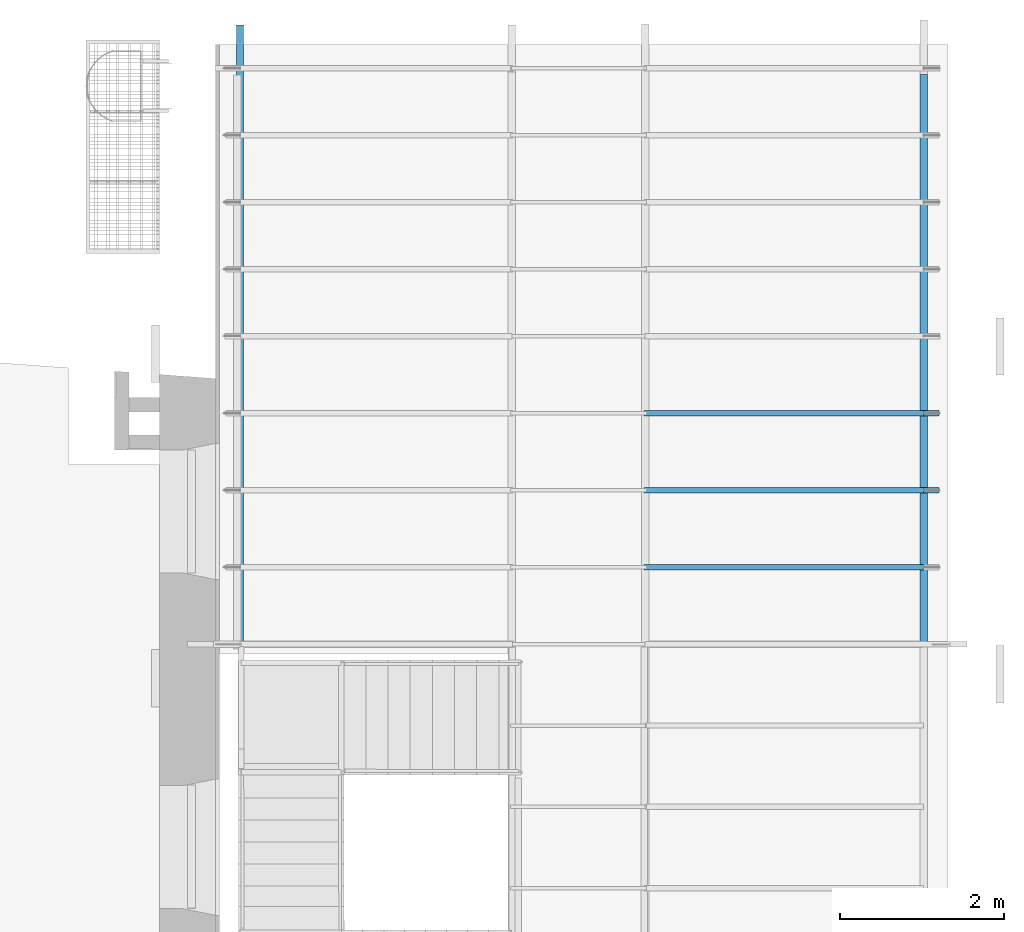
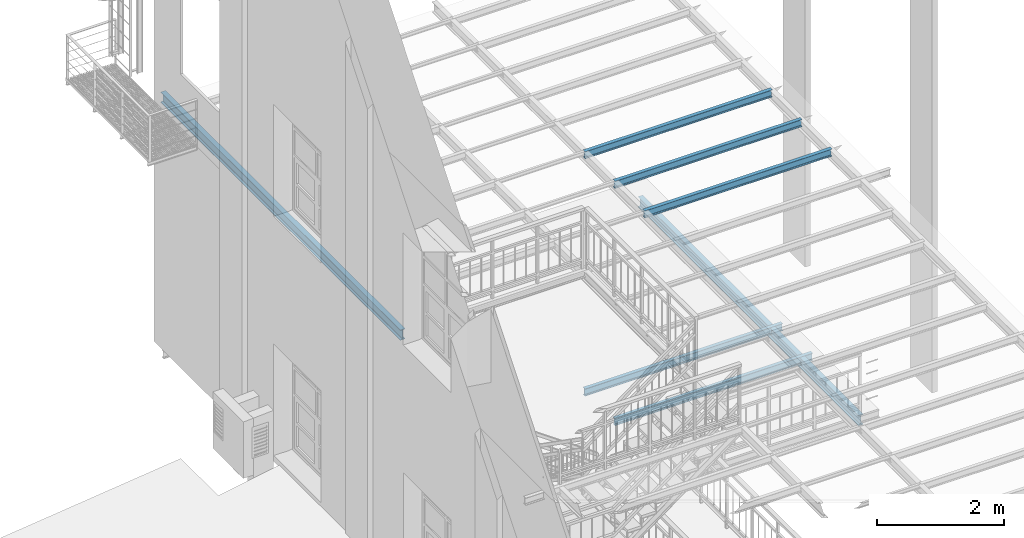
# One storey, part 17 of 33: 7 beams.
"""IFC2X3 building model written with IfcOpenShell, lengths in metres."""

from ifc_helpers import new_model, entity, si_unit, converted_unit, derived_unit, direction, frame, frame_2d, origin, place, context, subcontext, project, spatial, polyline, circle_curve, parameter, trimmed, segment, composite_curve, outline, extrude, material, type_object, element, save


model = new_model("IFC2X3")

# Units and contexts
model_context = context("Model", 3, precision=1e-05, world=origin(), true_north=direction((6.12303176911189e-17, 1.0)))
body_context = subcontext(model_context, "Body", "Model", "MODEL_VIEW")
ifc_project = project(units=[si_unit("LENGTHUNIT", "METRE"), si_unit("AREAUNIT", "SQUARE_METRE"), si_unit("VOLUMEUNIT", "CUBIC_METRE"), converted_unit("PLANEANGLEUNIT", "DEGREE", entity("IfcRatioMeasure", 0.0174532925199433), si_unit("PLANEANGLEUNIT", "RADIAN"), dimensions=[0, 0, 0, 0, 0, 0, 0]), si_unit("MASSUNIT", "GRAM", prefix="KILO"), derived_unit("MASSDENSITYUNIT", [(si_unit("MASSUNIT", "GRAM", prefix="KILO"), 1), (si_unit("LENGTHUNIT", "METRE"), -3)]), derived_unit("MOMENTOFINERTIAUNIT", [(si_unit("LENGTHUNIT", "METRE"), 4)]), si_unit("TIMEUNIT", "SECOND"), si_unit("FREQUENCYUNIT", "HERTZ"), si_unit("THERMODYNAMICTEMPERATUREUNIT", "DEGREE_CELSIUS"), derived_unit("THERMALTRANSMITTANCEUNIT", [(si_unit("MASSUNIT", "GRAM", prefix="KILO"), 1), (si_unit("THERMODYNAMICTEMPERATUREUNIT", "KELVIN"), -1), (si_unit("TIMEUNIT", "SECOND"), -3)]), derived_unit("VOLUMETRICFLOWRATEUNIT", [(si_unit("LENGTHUNIT", "METRE"), 3), (si_unit("TIMEUNIT", "SECOND"), -1)]), si_unit("ELECTRICCURRENTUNIT", "AMPERE"), si_unit("ELECTRICVOLTAGEUNIT", "VOLT"), si_unit("POWERUNIT", "WATT"), si_unit("FORCEUNIT", "NEWTON", prefix="KILO"), si_unit("ILLUMINANCEUNIT", "LUX"), si_unit("LUMINOUSFLUXUNIT", "LUMEN"), si_unit("LUMINOUSINTENSITYUNIT", "CANDELA"), derived_unit("USERDEFINED", [(si_unit("MASSUNIT", "GRAM", prefix="KILO"), -1), (si_unit("LENGTHUNIT", "METRE"), -2), (si_unit("TIMEUNIT", "SECOND"), 3), (si_unit("LUMINOUSFLUXUNIT", "LUMEN"), 1)]), derived_unit("LINEARVELOCITYUNIT", [(si_unit("LENGTHUNIT", "METRE"), 1), (si_unit("TIMEUNIT", "SECOND"), -1)]), si_unit("PRESSUREUNIT", "PASCAL"), derived_unit("USERDEFINED", [(si_unit("LENGTHUNIT", "METRE"), -2), (si_unit("MASSUNIT", "GRAM", prefix="KILO"), 1), (si_unit("TIMEUNIT", "SECOND"), -2)]), derived_unit("LINEARFORCEUNIT", [(si_unit("MASSUNIT", "GRAM", prefix="KILO"), 1), (si_unit("LENGTHUNIT", "METRE"), 1), (si_unit("TIMEUNIT", "SECOND"), -2), (si_unit("LENGTHUNIT", "METRE"), -1)]), derived_unit("PLANARFORCEUNIT", [(si_unit("MASSUNIT", "GRAM", prefix="KILO"), 1), (si_unit("LENGTHUNIT", "METRE"), 1), (si_unit("TIMEUNIT", "SECOND"), -2), (si_unit("LENGTHUNIT", "METRE"), -2)])], contexts=[model_context])

# Site, building, storey
site_placement = place(None, origin())
site = spatial("IfcSite", under=ifc_project, at=site_placement, Name="Superficie", CompositionType="ELEMENT")
building_placement = place(site_placement, origin())
building = spatial("IfcBuilding", under=site, at=building_placement, Name="Telegestiones", CompositionType="ELEMENT")
storey_placement = place(building_placement, frame((0.0, 0.0, 4.94)))
storey = spatial("IfcBuildingStorey", under=building, at=storey_placement, Name="Nivel 1_NPT", CompositionType="ELEMENT", Elevation=4.94)

# Beams
ifc_material = material(Name="Metal - Acero - 345 MPa")
beam_type_1 = type_object("IfcBeamType", Name="IPN - Secciones en I con alas cónicas:IPN 200", PredefinedType="NOTDEFINED")
beam_1_placement = place(storey_placement, frame((14.6648126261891, 13.5236090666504, 0.0), z_axis=(0.0, 0.0, 1.0), x_axis=(0.0, -1.0, 0.0)))
element("IfcBeam", 1, at=beam_1_placement, inside=storey, type_object=beam_type_1, material=ifc_material, Name="IPN - Secciones en I con alas cónicas:IPN 200", ObjectType="IPN - Secciones en I con alas cónicas:IPN 200", context=body_context, shape_type="SweptSolid", body=[
    extrude(outline(composite_curve([segment(polyline([(0.0957638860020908, -0.0450000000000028), (0.100000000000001, -0.0450000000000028)]), True, "CONTINUOUS"), segment(polyline([(0.100000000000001, -0.0450000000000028), (0.100000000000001, 0.0449999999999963)]), True, "CONTINUOUS"), segment(polyline([(0.100000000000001, 0.0449999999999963), (0.0957638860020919, 0.0449999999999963)]), True, "CONTINUOUS"), segment(trimmed(circle_curve(frame_2d((0.0957638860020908, 0.0404999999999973), x_axis=(0.0, 1.0)), 0.0044999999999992), [parameter(0.0)], [parameter(82.0303896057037)], True, "PARAMETER"), True, "CONTINUOUS"), segment(polyline([(0.0913073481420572, 0.0411239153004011), (0.0869794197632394, 0.0102101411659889)]), True, "CONTINUOUS"), segment(trimmed(circle_curve(frame_2d((0.0795518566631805, 0.0112499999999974), x_axis=(0.990341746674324, -0.138647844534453)), 0.00750000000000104), [parameter(277.969610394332)], [parameter(0.0)], True, "PARAMETER"), False, "CONTINUOUS"), segment(polyline([(0.0795518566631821, 0.00374999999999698), (-0.079551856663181, 0.00374999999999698)]), True, "CONTINUOUS"), segment(trimmed(circle_curve(frame_2d((-0.0795518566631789, 0.0112499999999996), x_axis=(0.0, -1.0)), 0.00750000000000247), [parameter(277.969610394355)], [parameter(0.0)], True, "PARAMETER"), False, "CONTINUOUS"), segment(polyline([(-0.0869794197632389, 0.0102101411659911), (-0.0913073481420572, 0.0411239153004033)]), True, "CONTINUOUS"), segment(trimmed(circle_curve(frame_2d((-0.0957638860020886, 0.0404999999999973), x_axis=(0.990341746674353, 0.138647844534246)), 0.00449999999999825), [parameter(0.0)], [parameter(82.0303896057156)], True, "PARAMETER"), True, "CONTINUOUS"), segment(polyline([(-0.0957638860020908, 0.0449999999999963), (-0.0999999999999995, 0.0449999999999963)]), True, "CONTINUOUS"), segment(polyline([(-0.0999999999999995, 0.0449999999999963), (-0.0999999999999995, -0.0450000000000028)]), True, "CONTINUOUS"), segment(polyline([(-0.0999999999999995, -0.0450000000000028), (-0.0957638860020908, -0.0450000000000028)]), True, "CONTINUOUS"), segment(trimmed(circle_curve(frame_2d((-0.0957638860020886, -0.0405000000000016), x_axis=(0.0, -1.0)), 0.00449999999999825), [parameter(0.0)], [parameter(82.0303896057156)], True, "PARAMETER"), True, "CONTINUOUS"), segment(polyline([(-0.0913073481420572, -0.0411239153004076), (-0.0869794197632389, -0.0102101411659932)]), True, "CONTINUOUS"), segment(trimmed(circle_curve(frame_2d((-0.0795518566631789, -0.0112500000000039), x_axis=(-0.990341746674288, 0.138647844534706)), 0.00750000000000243), [parameter(277.969610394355)], [parameter(0.0)], True, "PARAMETER"), False, "CONTINUOUS"), segment(polyline([(-0.079551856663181, -0.00375000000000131), (0.079551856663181, -0.00375000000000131)]), True, "CONTINUOUS"), segment(trimmed(circle_curve(frame_2d((0.0795518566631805, -0.0112500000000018), x_axis=(0.0, 1.0)), 0.00750000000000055), [parameter(277.969610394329)], [parameter(0.0)], True, "PARAMETER"), False, "CONTINUOUS"), segment(polyline([(0.0869794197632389, -0.0102101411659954), (0.0913073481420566, -0.0411239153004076)]), True, "CONTINUOUS"), segment(trimmed(circle_curve(frame_2d((0.0957638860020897, -0.0405000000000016), x_axis=(-0.990341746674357, -0.138647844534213)), 0.00449999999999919), [parameter(0.0)], [parameter(82.0303896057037)], True, "PARAMETER"), True, "CONTINUOUS")], self_intersect=False)), frame((0.143000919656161, 0.0, -0.130000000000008), z_axis=(1.0, 0.0, 0.0), x_axis=(0.0, 0.0, -1.0)), (0.0, 0.0, 1.0), 6.946),
])
beam_2_placement = place(storey_placement, frame((6.33481262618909, 6.43560722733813, 4.56), z_axis=(0.0, 0.0, 1.0), x_axis=(0.0, 1.0, 0.0)))
element("IfcBeam", 2, at=beam_2_placement, inside=storey, type_object=beam_type_1, material=ifc_material, Name="IPN - Secciones en I con alas cónicas:IPN 200", ObjectType="IPN - Secciones en I con alas cónicas:IPN 200", context=body_context, shape_type="SweptSolid", body=[
    extrude(outline(composite_curve([segment(polyline([(0.0957638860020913, -0.0449999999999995), (0.100000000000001, -0.0449999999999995)]), True, "CONTINUOUS"), segment(polyline([(0.100000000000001, -0.0449999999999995), (0.100000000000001, 0.0449999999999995)]), True, "CONTINUOUS"), segment(polyline([(0.100000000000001, 0.0449999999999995), (0.0957638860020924, 0.0449999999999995)]), True, "CONTINUOUS"), segment(trimmed(circle_curve(frame_2d((0.0957638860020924, 0.0404999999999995), x_axis=(0.0, 1.0)), 0.00450000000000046), [parameter(0.0)], [parameter(82.0303896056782)], True, "PARAMETER"), True, "CONTINUOUS"), segment(polyline([(0.0913073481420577, 0.0411239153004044), (0.0869794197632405, 0.0102101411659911)]), True, "CONTINUOUS"), segment(trimmed(circle_curve(frame_2d((0.0795518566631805, 0.0112500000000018), x_axis=(0.990341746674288, -0.138647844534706)), 0.00750000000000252), [parameter(277.969610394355)], [parameter(0.0)], True, "PARAMETER"), False, "CONTINUOUS"), segment(polyline([(0.0795518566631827, 0.00374999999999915), (-0.0795518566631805, 0.00374999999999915)]), True, "CONTINUOUS"), segment(trimmed(circle_curve(frame_2d((-0.0795518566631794, 0.0112500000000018), x_axis=(0.0, -1.0)), 0.00750000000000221), [parameter(277.96961039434)], [parameter(0.0)], True, "PARAMETER"), False, "CONTINUOUS"), segment(polyline([(-0.0869794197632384, 0.0102101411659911), (-0.0913073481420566, 0.0411239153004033)]), True, "CONTINUOUS"), segment(trimmed(circle_curve(frame_2d((-0.0957638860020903, 0.0404999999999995), x_axis=(0.990341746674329, 0.138647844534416)), 0.00450000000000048), [parameter(0.0)], [parameter(82.0303896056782)], True, "PARAMETER"), True, "CONTINUOUS"), segment(polyline([(-0.0957638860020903, 0.0449999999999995), (-0.0999999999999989, 0.0449999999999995)]), True, "CONTINUOUS"), segment(polyline([(-0.0999999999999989, 0.0450000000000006), (-0.0999999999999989, -0.0449999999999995)]), True, "CONTINUOUS"), segment(polyline([(-0.0999999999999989, -0.0449999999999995), (-0.0957638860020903, -0.0449999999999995)]), True, "CONTINUOUS"), segment(trimmed(circle_curve(frame_2d((-0.0957638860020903, -0.0404999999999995), x_axis=(0.0, -1.0)), 0.00450000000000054), [parameter(0.0)], [parameter(82.0303896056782)], True, "PARAMETER"), True, "CONTINUOUS"), segment(polyline([(-0.0913073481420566, -0.0411239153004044), (-0.0869794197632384, -0.0102101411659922)]), True, "CONTINUOUS"), segment(trimmed(circle_curve(frame_2d((-0.0795518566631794, -0.0112500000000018), x_axis=(-0.990341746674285, 0.138647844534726)), 0.00750000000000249), [parameter(277.969610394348)], [parameter(0.0)], True, "PARAMETER"), False, "CONTINUOUS"), segment(polyline([(-0.0795518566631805, -0.00375000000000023), (0.0795518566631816, -0.00375000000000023)]), True, "CONTINUOUS"), segment(trimmed(circle_curve(frame_2d((0.0795518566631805, -0.0112500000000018), x_axis=(0.0, 1.0)), 0.00750000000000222), [parameter(277.96961039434)], [parameter(0.0)], True, "PARAMETER"), False, "CONTINUOUS"), segment(polyline([(0.0869794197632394, -0.0102101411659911), (0.0913073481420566, -0.0411239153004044)]), True, "CONTINUOUS"), segment(trimmed(circle_curve(frame_2d((0.0957638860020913, -0.0404999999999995), x_axis=(-0.990341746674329, -0.138647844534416)), 0.00450000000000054), [parameter(0.0)], [parameter(82.0303896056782)], True, "PARAMETER"), True, "CONTINUOUS")], self_intersect=False)), frame((0.0, 0.0, -0.130000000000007), z_axis=(1.0, 0.0, 0.0), x_axis=(0.0, 0.0, -1.0)), (0.0, 0.0, 1.0), 7.548),
])
beam_type_2 = type_object("IfcBeamType", Name="IPN - Secciones en I con alas cónicas:IPN 140", PredefinedType="NOTDEFINED")
beam_3_placement = place(storey_placement, frame((11.2748126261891, 9.25260722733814, 0.0)))
element("IfcBeam", 3, at=beam_3_placement, inside=storey, type_object=beam_type_2, material=ifc_material, Name="IPN - Secciones en I con alas cónicas:IPN 140", ObjectType="IPN - Secciones en I con alas cónicas:IPN 140", context=body_context, shape_type="SweptSolid", body=[
    extrude(outline(composite_curve([segment(polyline([(0.0666671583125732, -0.0330000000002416), (0.0699999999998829, -0.0330000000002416)]), True, "CONTINUOUS"), segment(polyline([(0.0699999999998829, -0.0330000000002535), (0.0700000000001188, 0.0329999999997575)]), True, "CONTINUOUS"), segment(polyline([(0.0700000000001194, 0.0329999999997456), (0.0666671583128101, 0.0329999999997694)]), True, "CONTINUOUS"), segment(trimmed(circle_curve(frame_2d((0.0666671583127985, 0.0295999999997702), x_axis=(0.0, 1.0)), 0.00340000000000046), [parameter(0.0)], [parameter(82.0303896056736)], True, "PARAMETER"), True, "CONTINUOUS"), segment(polyline([(0.0632999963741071, 0.030071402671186), (0.0601763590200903, 0.00775970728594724)]), True, "CONTINUOUS"), segment(trimmed(circle_curve(frame_2d((0.0545314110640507, 0.00854999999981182), x_axis=(0.990341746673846, -0.138647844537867)), 0.00569999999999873), [parameter(277.969610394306)], [parameter(0.0)], True, "PARAMETER"), False, "CONTINUOUS"), segment(polyline([(0.0545314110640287, 0.00284999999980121), (-0.0545314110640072, 0.00285000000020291)]), True, "CONTINUOUS"), segment(trimmed(circle_curve(frame_2d((-0.0545314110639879, 0.00855000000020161), x_axis=(0.0, -1.0)), 0.00569999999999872), [parameter(277.969610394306)], [parameter(0.0)], True, "PARAMETER"), False, "CONTINUOUS"), segment(polyline([(-0.0601763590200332, 0.00775970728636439), (-0.06329999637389, 0.0300714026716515)]), True, "CONTINUOUS"), segment(trimmed(circle_curve(frame_2d((-0.0666671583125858, 0.0296000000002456), x_axis=(0.990341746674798, 0.138647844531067)), 0.00340000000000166), [parameter(0.0)], [parameter(82.0303896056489)], True, "PARAMETER"), True, "CONTINUOUS"), segment(polyline([(-0.0666671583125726, 0.033000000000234), (-0.0699999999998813, 0.0330000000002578)]), True, "CONTINUOUS"), segment(polyline([(-0.0699999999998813, 0.0330000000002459), (-0.0700000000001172, -0.0329999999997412)]), True, "CONTINUOUS"), segment(polyline([(-0.0700000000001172, -0.0329999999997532), (-0.0666671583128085, -0.0329999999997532)]), True, "CONTINUOUS"), segment(trimmed(circle_curve(frame_2d((-0.0666671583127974, -0.0295999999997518), x_axis=(0.0, -1.0)), 0.00340000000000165), [parameter(0.0)], [parameter(82.0303896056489)], True, "PARAMETER"), True, "CONTINUOUS"), segment(polyline([(-0.0632999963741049, -0.0300714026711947), (-0.0601763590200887, -0.00775970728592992)]), True, "CONTINUOUS"), segment(trimmed(circle_curve(frame_2d((-0.054531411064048, -0.00854999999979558), x_axis=(-0.990341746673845, 0.138647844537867)), 0.00569999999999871), [parameter(277.969610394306)], [parameter(0.0)], True, "PARAMETER"), False, "CONTINUOUS"), segment(polyline([(-0.0545314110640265, -0.00284999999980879), (0.0545314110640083, -0.00285000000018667)]), True, "CONTINUOUS"), segment(trimmed(circle_curve(frame_2d((0.054531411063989, -0.00855000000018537), x_axis=(0.0, 1.0)), 0.0056999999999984), [parameter(277.969610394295)], [parameter(0.0)], True, "PARAMETER"), False, "CONTINUOUS"), segment(polyline([(0.0601763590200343, -0.00775970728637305), (0.0632999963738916, -0.0300714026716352)]), True, "CONTINUOUS"), segment(trimmed(circle_curve(frame_2d((0.0666671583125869, -0.0296000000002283), x_axis=(-0.990341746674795, -0.138647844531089)), 0.00340000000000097), [parameter(0.0)], [parameter(82.0303896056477)], True, "PARAMETER"), True, "CONTINUOUS")], self_intersect=False)), frame((-0.0149999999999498, 0.0, -0.100000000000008), z_axis=(1.0, 0.0, 0.0), x_axis=(0.0, 0.0, -1.0)), (0.0, 0.0, 1.0), 3.59499999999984),
])
beam_4_placement = place(storey_placement, frame((11.2748126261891, 8.31360722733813, 0.0)))
element("IfcBeam", 4, at=beam_4_placement, inside=storey, type_object=beam_type_2, material=ifc_material, Name="IPN - Secciones en I con alas cónicas:IPN 140", ObjectType="IPN - Secciones en I con alas cónicas:IPN 140", context=body_context, shape_type="SweptSolid", body=[
    extrude(outline(composite_curve([segment(polyline([(0.0666671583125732, -0.0330000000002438), (0.0699999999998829, -0.0330000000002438)]), True, "CONTINUOUS"), segment(polyline([(0.0699999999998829, -0.0330000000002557), (0.0700000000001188, 0.0329999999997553)]), True, "CONTINUOUS"), segment(polyline([(0.0700000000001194, 0.0329999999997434), (0.0666671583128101, 0.0329999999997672)]), True, "CONTINUOUS"), segment(trimmed(circle_curve(frame_2d((0.0666671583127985, 0.029599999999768), x_axis=(0.0, 1.0)), 0.00340000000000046), [parameter(0.0)], [parameter(82.0303896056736)], True, "PARAMETER"), True, "CONTINUOUS"), segment(polyline([(0.0632999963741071, 0.0300714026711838), (0.0601763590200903, 0.00775970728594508)]), True, "CONTINUOUS"), segment(trimmed(circle_curve(frame_2d((0.0545314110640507, 0.00854999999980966), x_axis=(0.990341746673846, -0.138647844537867)), 0.00569999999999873), [parameter(277.969610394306)], [parameter(0.0)], True, "PARAMETER"), False, "CONTINUOUS"), segment(polyline([(0.0545314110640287, 0.00284999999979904), (-0.0545314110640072, 0.00285000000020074)]), True, "CONTINUOUS"), segment(trimmed(circle_curve(frame_2d((-0.0545314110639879, 0.00855000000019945), x_axis=(0.0, -1.0)), 0.00569999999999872), [parameter(277.969610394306)], [parameter(0.0)], True, "PARAMETER"), False, "CONTINUOUS"), segment(polyline([(-0.0601763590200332, 0.00775970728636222), (-0.06329999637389, 0.0300714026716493)]), True, "CONTINUOUS"), segment(trimmed(circle_curve(frame_2d((-0.0666671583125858, 0.0296000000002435), x_axis=(0.990341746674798, 0.138647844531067)), 0.00340000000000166), [parameter(0.0)], [parameter(82.0303896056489)], True, "PARAMETER"), True, "CONTINUOUS"), segment(polyline([(-0.0666671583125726, 0.0330000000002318), (-0.0699999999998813, 0.0330000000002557)]), True, "CONTINUOUS"), segment(polyline([(-0.0699999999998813, 0.0330000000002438), (-0.0700000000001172, -0.0329999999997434)]), True, "CONTINUOUS"), segment(polyline([(-0.0700000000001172, -0.0329999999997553), (-0.0666671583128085, -0.0329999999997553)]), True, "CONTINUOUS"), segment(trimmed(circle_curve(frame_2d((-0.0666671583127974, -0.0295999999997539), x_axis=(0.0, -1.0)), 0.00340000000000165), [parameter(0.0)], [parameter(82.0303896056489)], True, "PARAMETER"), True, "CONTINUOUS"), segment(polyline([(-0.0632999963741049, -0.0300714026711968), (-0.0601763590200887, -0.00775970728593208)]), True, "CONTINUOUS"), segment(trimmed(circle_curve(frame_2d((-0.054531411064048, -0.00854999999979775), x_axis=(-0.990341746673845, 0.138647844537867)), 0.00569999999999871), [parameter(277.969610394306)], [parameter(0.0)], True, "PARAMETER"), False, "CONTINUOUS"), segment(polyline([(-0.0545314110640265, -0.00284999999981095), (0.0545314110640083, -0.00285000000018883)]), True, "CONTINUOUS"), segment(trimmed(circle_curve(frame_2d((0.054531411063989, -0.00855000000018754), x_axis=(0.0, 1.0)), 0.0056999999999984), [parameter(277.969610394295)], [parameter(0.0)], True, "PARAMETER"), False, "CONTINUOUS"), segment(polyline([(0.0601763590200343, -0.00775970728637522), (0.0632999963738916, -0.0300714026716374)]), True, "CONTINUOUS"), segment(trimmed(circle_curve(frame_2d((0.0666671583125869, -0.0296000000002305), x_axis=(-0.990341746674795, -0.138647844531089)), 0.00340000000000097), [parameter(0.0)], [parameter(82.0303896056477)], True, "PARAMETER"), True, "CONTINUOUS")], self_intersect=False)), frame((-0.0149999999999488, 0.0, -0.100000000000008), z_axis=(1.0, 0.0, 0.0), x_axis=(0.0, 0.0, -1.0)), (0.0, 0.0, 1.0), 3.59499999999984),
])
beam_5_placement = place(storey_placement, frame((11.2748126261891, 9.25260722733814, 4.56)))
element("IfcBeam", 5, at=beam_5_placement, inside=storey, type_object=beam_type_2, material=ifc_material, Name="IPN - Secciones en I con alas cónicas:IPN 140", ObjectType="IPN - Secciones en I con alas cónicas:IPN 140", context=body_context, shape_type="SweptSolid", body=[
    extrude(outline(composite_curve([segment(polyline([(0.0666671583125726, -0.0330000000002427), (0.0699999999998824, -0.0330000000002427)]), True, "CONTINUOUS"), segment(polyline([(0.0699999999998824, -0.0330000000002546), (0.0700000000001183, 0.0329999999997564)]), True, "CONTINUOUS"), segment(polyline([(0.0700000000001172, 0.0329999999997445), (0.0666671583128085, 0.0329999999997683)]), True, "CONTINUOUS"), segment(trimmed(circle_curve(frame_2d((0.0666671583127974, 0.029599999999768), x_axis=(0.0, 1.0)), 0.00340000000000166), [parameter(0.0)], [parameter(82.0303896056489)], True, "PARAMETER"), True, "CONTINUOUS"), segment(polyline([(0.063299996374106, 0.030071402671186), (0.0601763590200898, 0.00775970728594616)]), True, "CONTINUOUS"), segment(trimmed(circle_curve(frame_2d((0.054531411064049, 0.00854999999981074), x_axis=(0.990341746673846, -0.138647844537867)), 0.00569999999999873), [parameter(277.969610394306)], [parameter(0.0)], True, "PARAMETER"), False, "CONTINUOUS"), segment(polyline([(0.0545314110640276, 0.00284999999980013), (-0.0545314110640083, 0.00285000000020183)]), True, "CONTINUOUS"), segment(trimmed(circle_curve(frame_2d((-0.054531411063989, 0.00855000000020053), x_axis=(0.0, -1.0)), 0.00569999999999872), [parameter(277.969610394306)], [parameter(0.0)], True, "PARAMETER"), False, "CONTINUOUS"), segment(polyline([(-0.0601763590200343, 0.00775970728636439), (-0.0632999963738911, 0.0300714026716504)]), True, "CONTINUOUS"), segment(trimmed(circle_curve(frame_2d((-0.0666671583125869, 0.0296000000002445), x_axis=(0.990341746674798, 0.138647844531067)), 0.00340000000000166), [parameter(0.0)], [parameter(82.0303896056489)], True, "PARAMETER"), True, "CONTINUOUS"), segment(polyline([(-0.0666671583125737, 0.0330000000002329), (-0.0699999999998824, 0.0330000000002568)]), True, "CONTINUOUS"), segment(polyline([(-0.0699999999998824, 0.0330000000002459), (-0.0700000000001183, -0.0329999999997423)]), True, "CONTINUOUS"), segment(polyline([(-0.0700000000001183, -0.0329999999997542), (-0.0666671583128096, -0.0329999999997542)]), True, "CONTINUOUS"), segment(trimmed(circle_curve(frame_2d((-0.0666671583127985, -0.0295999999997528), x_axis=(0.0, -1.0)), 0.00340000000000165), [parameter(0.0)], [parameter(82.0303896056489)], True, "PARAMETER"), True, "CONTINUOUS"), segment(polyline([(-0.063299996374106, -0.0300714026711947), (-0.0601763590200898, -0.007759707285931)]), True, "CONTINUOUS"), segment(trimmed(circle_curve(frame_2d((-0.054531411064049, -0.00854999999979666), x_axis=(-0.990341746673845, 0.138647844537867)), 0.00569999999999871), [parameter(277.969610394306)], [parameter(0.0)], True, "PARAMETER"), False, "CONTINUOUS"), segment(polyline([(-0.0545314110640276, -0.00284999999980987), (0.0545314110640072, -0.00285000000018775)]), True, "CONTINUOUS"), segment(trimmed(circle_curve(frame_2d((0.0545314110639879, -0.00855000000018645), x_axis=(0.0, 1.0)), 0.0056999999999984), [parameter(277.969610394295)], [parameter(0.0)], True, "PARAMETER"), False, "CONTINUOUS"), segment(polyline([(0.0601763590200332, -0.00775970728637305), (0.06329999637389, -0.0300714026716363)]), True, "CONTINUOUS"), segment(trimmed(circle_curve(frame_2d((0.0666671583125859, -0.0296000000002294), x_axis=(-0.990341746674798, -0.138647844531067)), 0.00340000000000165), [parameter(0.0)], [parameter(82.0303896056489)], True, "PARAMETER"), True, "CONTINUOUS")], self_intersect=False)), frame((-0.0149999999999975, 0.0, -0.100000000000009), z_axis=(1.0, 0.0, 0.0), x_axis=(0.0, 0.0, -1.0)), (0.0, 0.0, 1.0), 3.405),
])
beam_6_placement = place(storey_placement, frame((11.2748126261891, 8.31360722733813, 4.56)))
element("IfcBeam", 6, at=beam_6_placement, inside=storey, type_object=beam_type_2, material=ifc_material, Name="IPN - Secciones en I con alas cónicas:IPN 140", ObjectType="IPN - Secciones en I con alas cónicas:IPN 140", context=body_context, shape_type="SweptSolid", body=[
    extrude(outline(composite_curve([segment(polyline([(0.0666671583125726, -0.0330000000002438), (0.0699999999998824, -0.0330000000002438)]), True, "CONTINUOUS"), segment(polyline([(0.0699999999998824, -0.0330000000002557), (0.0700000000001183, 0.0329999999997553)]), True, "CONTINUOUS"), segment(polyline([(0.0700000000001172, 0.0329999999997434), (0.0666671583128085, 0.0329999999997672)]), True, "CONTINUOUS"), segment(trimmed(circle_curve(frame_2d((0.0666671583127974, 0.0295999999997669), x_axis=(0.0, 1.0)), 0.00340000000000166), [parameter(0.0)], [parameter(82.0303896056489)], True, "PARAMETER"), True, "CONTINUOUS"), segment(polyline([(0.063299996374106, 0.0300714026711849), (0.0601763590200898, 0.00775970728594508)]), True, "CONTINUOUS"), segment(trimmed(circle_curve(frame_2d((0.054531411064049, 0.00854999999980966), x_axis=(0.990341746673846, -0.138647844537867)), 0.00569999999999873), [parameter(277.969610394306)], [parameter(0.0)], True, "PARAMETER"), False, "CONTINUOUS"), segment(polyline([(0.0545314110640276, 0.00284999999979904), (-0.0545314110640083, 0.00285000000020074)]), True, "CONTINUOUS"), segment(trimmed(circle_curve(frame_2d((-0.054531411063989, 0.00855000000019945), x_axis=(0.0, -1.0)), 0.00569999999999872), [parameter(277.969610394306)], [parameter(0.0)], True, "PARAMETER"), False, "CONTINUOUS"), segment(polyline([(-0.0601763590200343, 0.00775970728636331), (-0.0632999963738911, 0.0300714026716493)]), True, "CONTINUOUS"), segment(trimmed(circle_curve(frame_2d((-0.0666671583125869, 0.0296000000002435), x_axis=(0.990341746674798, 0.138647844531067)), 0.00340000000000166), [parameter(0.0)], [parameter(82.0303896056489)], True, "PARAMETER"), True, "CONTINUOUS"), segment(polyline([(-0.0666671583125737, 0.0330000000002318), (-0.0699999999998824, 0.0330000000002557)]), True, "CONTINUOUS"), segment(polyline([(-0.0699999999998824, 0.0330000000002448), (-0.0700000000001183, -0.0329999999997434)]), True, "CONTINUOUS"), segment(polyline([(-0.0700000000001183, -0.0329999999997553), (-0.0666671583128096, -0.0329999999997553)]), True, "CONTINUOUS"), segment(trimmed(circle_curve(frame_2d((-0.0666671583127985, -0.0295999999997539), x_axis=(0.0, -1.0)), 0.00340000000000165), [parameter(0.0)], [parameter(82.0303896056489)], True, "PARAMETER"), True, "CONTINUOUS"), segment(polyline([(-0.063299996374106, -0.0300714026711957), (-0.0601763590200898, -0.00775970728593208)]), True, "CONTINUOUS"), segment(trimmed(circle_curve(frame_2d((-0.054531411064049, -0.00854999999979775), x_axis=(-0.990341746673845, 0.138647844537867)), 0.00569999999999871), [parameter(277.969610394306)], [parameter(0.0)], True, "PARAMETER"), False, "CONTINUOUS"), segment(polyline([(-0.0545314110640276, -0.00284999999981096), (0.0545314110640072, -0.00285000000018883)]), True, "CONTINUOUS"), segment(trimmed(circle_curve(frame_2d((0.0545314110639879, -0.00855000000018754), x_axis=(0.0, 1.0)), 0.0056999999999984), [parameter(277.969610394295)], [parameter(0.0)], True, "PARAMETER"), False, "CONTINUOUS"), segment(polyline([(0.0601763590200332, -0.00775970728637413), (0.06329999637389, -0.0300714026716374)]), True, "CONTINUOUS"), segment(trimmed(circle_curve(frame_2d((0.0666671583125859, -0.0296000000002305), x_axis=(-0.990341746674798, -0.138647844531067)), 0.00340000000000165), [parameter(0.0)], [parameter(82.0303896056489)], True, "PARAMETER"), True, "CONTINUOUS")], self_intersect=False)), frame((-0.0149999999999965, 0.0, -0.100000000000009), z_axis=(1.0, 0.0, 0.0), x_axis=(0.0, 0.0, -1.0)), (0.0, 0.0, 1.0), 3.405),
])
beam_7_placement = place(storey_placement, frame((11.2748126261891, 7.37460722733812, 4.56)))
element("IfcBeam", 7, at=beam_7_placement, inside=storey, type_object=beam_type_2, material=ifc_material, Name="IPN - Secciones en I con alas cónicas:IPN 140", ObjectType="IPN - Secciones en I con alas cónicas:IPN 140", context=body_context, shape_type="SweptSolid", body=[
    extrude(outline(composite_curve([segment(polyline([(0.0666671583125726, -0.0330000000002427), (0.0699999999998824, -0.0330000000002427)]), True, "CONTINUOUS"), segment(polyline([(0.0699999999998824, -0.0330000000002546), (0.0700000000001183, 0.0329999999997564)]), True, "CONTINUOUS"), segment(polyline([(0.0700000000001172, 0.0329999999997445), (0.0666671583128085, 0.0329999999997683)]), True, "CONTINUOUS"), segment(trimmed(circle_curve(frame_2d((0.0666671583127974, 0.029599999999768), x_axis=(0.0, 1.0)), 0.00340000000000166), [parameter(0.0)], [parameter(82.0303896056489)], True, "PARAMETER"), True, "CONTINUOUS"), segment(polyline([(0.063299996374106, 0.030071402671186), (0.0601763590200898, 0.00775970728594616)]), True, "CONTINUOUS"), segment(trimmed(circle_curve(frame_2d((0.054531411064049, 0.00854999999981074), x_axis=(0.990341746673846, -0.138647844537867)), 0.00569999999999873), [parameter(277.969610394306)], [parameter(0.0)], True, "PARAMETER"), False, "CONTINUOUS"), segment(polyline([(0.0545314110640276, 0.00284999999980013), (-0.0545314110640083, 0.00285000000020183)]), True, "CONTINUOUS"), segment(trimmed(circle_curve(frame_2d((-0.054531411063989, 0.00855000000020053), x_axis=(0.0, -1.0)), 0.00569999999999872), [parameter(277.969610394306)], [parameter(0.0)], True, "PARAMETER"), False, "CONTINUOUS"), segment(polyline([(-0.0601763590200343, 0.00775970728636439), (-0.0632999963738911, 0.0300714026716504)]), True, "CONTINUOUS"), segment(trimmed(circle_curve(frame_2d((-0.0666671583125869, 0.0296000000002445), x_axis=(0.990341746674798, 0.138647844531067)), 0.00340000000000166), [parameter(0.0)], [parameter(82.0303896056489)], True, "PARAMETER"), True, "CONTINUOUS"), segment(polyline([(-0.0666671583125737, 0.0330000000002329), (-0.0699999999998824, 0.0330000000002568)]), True, "CONTINUOUS"), segment(polyline([(-0.0699999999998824, 0.0330000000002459), (-0.0700000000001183, -0.0329999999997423)]), True, "CONTINUOUS"), segment(polyline([(-0.0700000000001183, -0.0329999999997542), (-0.0666671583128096, -0.0329999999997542)]), True, "CONTINUOUS"), segment(trimmed(circle_curve(frame_2d((-0.0666671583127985, -0.0295999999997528), x_axis=(0.0, -1.0)), 0.00340000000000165), [parameter(0.0)], [parameter(82.0303896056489)], True, "PARAMETER"), True, "CONTINUOUS"), segment(polyline([(-0.063299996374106, -0.0300714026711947), (-0.0601763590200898, -0.007759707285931)]), True, "CONTINUOUS"), segment(trimmed(circle_curve(frame_2d((-0.054531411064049, -0.00854999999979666), x_axis=(-0.990341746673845, 0.138647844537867)), 0.00569999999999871), [parameter(277.969610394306)], [parameter(0.0)], True, "PARAMETER"), False, "CONTINUOUS"), segment(polyline([(-0.0545314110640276, -0.00284999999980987), (0.0545314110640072, -0.00285000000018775)]), True, "CONTINUOUS"), segment(trimmed(circle_curve(frame_2d((0.0545314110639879, -0.00855000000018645), x_axis=(0.0, 1.0)), 0.0056999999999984), [parameter(277.969610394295)], [parameter(0.0)], True, "PARAMETER"), False, "CONTINUOUS"), segment(polyline([(0.0601763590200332, -0.00775970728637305), (0.06329999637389, -0.0300714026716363)]), True, "CONTINUOUS"), segment(trimmed(circle_curve(frame_2d((0.0666671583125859, -0.0296000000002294), x_axis=(-0.990341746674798, -0.138647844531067)), 0.00340000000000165), [parameter(0.0)], [parameter(82.0303896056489)], True, "PARAMETER"), True, "CONTINUOUS")], self_intersect=False)), frame((-0.0149999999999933, 0.0, -0.100000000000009), z_axis=(1.0, 0.0, 0.0), x_axis=(0.0, 0.0, -1.0)), (0.0, 0.0, 1.0), 3.405),
])

save(model, "model.ifc")
